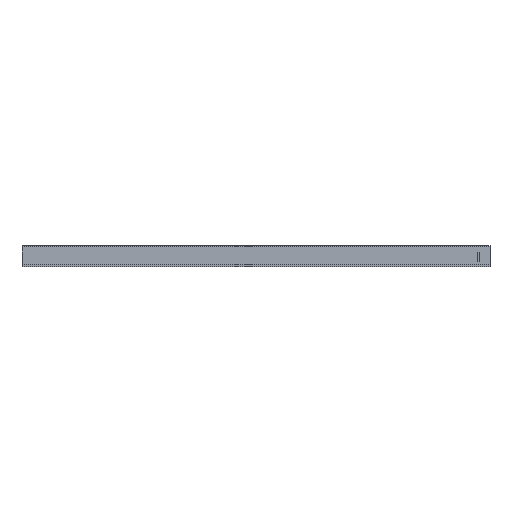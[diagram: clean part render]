
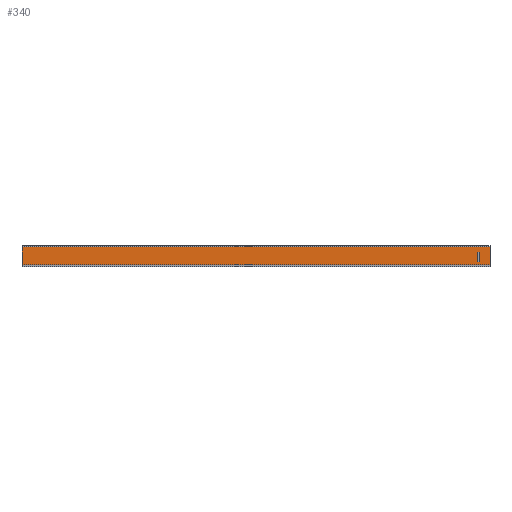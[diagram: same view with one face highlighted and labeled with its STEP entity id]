
A CAD part, left-side view. The second image highlights one B-rep face of the part: STEP entity #340.
In plain terms, the highlighted planar face has unit normal (-1, 0, 0).
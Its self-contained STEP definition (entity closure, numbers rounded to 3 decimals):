
#340 = ADVANCED_FACE( '', ( #1057, #1058 ), #1059, .F. );
#1057 = FACE_BOUND( '', #2205, .T. );
#1058 = FACE_OUTER_BOUND( '', #2206, .T. );
#1059 = PLANE( '', #2207 );
#2205 = EDGE_LOOP( '', ( #4158, #4159, #4160, #4161 ) );
#2206 = EDGE_LOOP( '', ( #4162, #4163, #4164, #4165 ) );
#2207 = AXIS2_PLACEMENT_3D( '', #4166, #4167, #4168 );
#4158 = ORIENTED_EDGE( '', *, *, #6637, .F. );
#4159 = ORIENTED_EDGE( '', *, *, #6237, .F. );
#4160 = ORIENTED_EDGE( '', *, *, #6638, .T. );
#4161 = ORIENTED_EDGE( '', *, *, #6639, .T. );
#4162 = ORIENTED_EDGE( '', *, *, #6615, .T. );
#4163 = ORIENTED_EDGE( '', *, *, #6375, .F. );
#4164 = ORIENTED_EDGE( '', *, *, #6636, .F. );
#4165 = ORIENTED_EDGE( '', *, *, #6640, .T. );
#4166 = CARTESIAN_POINT( '', ( -22., 1800., 7.3 ) );
#4167 = DIRECTION( '', ( 1., 0., 0. ) );
#4168 = DIRECTION( '', ( 0., 0., -1. ) );
#6237 = EDGE_CURVE( '', #7290, #7292, #7293, .T. );
#6375 = EDGE_CURVE( '', #7532, #7527, #7534, .T. );
#6615 = EDGE_CURVE( '', #7953, #7527, #7954, .T. );
#6636 = EDGE_CURVE( '', #7988, #7532, #7990, .T. );
#6637 = EDGE_CURVE( '', #7292, #7991, #7992, .T. );
#6638 = EDGE_CURVE( '', #7290, #7993, #7994, .T. );
#6639 = EDGE_CURVE( '', #7993, #7991, #7995, .T. );
#6640 = EDGE_CURVE( '', #7988, #7953, #7996, .T. );
#7290 = VERTEX_POINT( '', #9083 );
#7292 = VERTEX_POINT( '', #9086 );
#7293 = LINE( '', #9087, #9088 );
#7527 = VERTEX_POINT( '', #9429 );
#7532 = VERTEX_POINT( '', #9436 );
#7534 = LINE( '', #9439, #9440 );
#7953 = VERTEX_POINT( '', #10047 );
#7954 = LINE( '', #10048, #10049 );
#7988 = VERTEX_POINT( '', #10102 );
#7990 = LINE( '', #10105, #10106 );
#7991 = VERTEX_POINT( '', #10107 );
#7992 = LINE( '', #10108, #10109 );
#7993 = VERTEX_POINT( '', #10110 );
#7994 = LINE( '', #10111, #10112 );
#7995 = LINE( '', #10113, #10114 );
#7996 = LINE( '', #10115, #10116 );
#9083 = CARTESIAN_POINT( '', ( -22., 47., 54.8 ) );
#9086 = CARTESIAN_POINT( '', ( -22., 47., 46.5 ) );
#9087 = CARTESIAN_POINT( '', ( -22., 47., 54.8 ) );
#9088 = VECTOR( '', #11691, 1000. );
#9429 = CARTESIAN_POINT( '', ( -22., 0., 75.95 ) );
#9436 = CARTESIAN_POINT( '', ( -22., 1800., 75.95 ) );
#9439 = CARTESIAN_POINT( '', ( -22., 1800., 75.95 ) );
#9440 = VECTOR( '', #11883, 1000. );
#10047 = CARTESIAN_POINT( '', ( -22., 0., 7.3 ) );
#10048 = CARTESIAN_POINT( '', ( -22., 0., 7.3 ) );
#10049 = VECTOR( '', #12225, 1000. );
#10102 = CARTESIAN_POINT( '', ( -22., 1800., 7.3 ) );
#10105 = CARTESIAN_POINT( '', ( -22., 1800., 7.3 ) );
#10106 = VECTOR( '', #12246, 1000. );
#10107 = CARTESIAN_POINT( '', ( -22., 41., 46.5 ) );
#10108 = CARTESIAN_POINT( '', ( -22., 47., 46.5 ) );
#10109 = VECTOR( '', #12247, 1000. );
#10110 = CARTESIAN_POINT( '', ( -22., 41., 54.8 ) );
#10111 = CARTESIAN_POINT( '', ( -22., 47., 54.8 ) );
#10112 = VECTOR( '', #12248, 1000. );
#10113 = CARTESIAN_POINT( '', ( -22., 41., 54.8 ) );
#10114 = VECTOR( '', #12249, 1000. );
#10115 = CARTESIAN_POINT( '', ( -22., 1800., 7.3 ) );
#10116 = VECTOR( '', #12250, 1000. );
#11691 = DIRECTION( '', ( 0., 0., -1. ) );
#11883 = DIRECTION( '', ( 0., -1., 0. ) );
#12225 = DIRECTION( '', ( 0., 0., 1. ) );
#12246 = DIRECTION( '', ( 0., 0., 1. ) );
#12247 = DIRECTION( '', ( 0., -1., 0. ) );
#12248 = DIRECTION( '', ( 0., -1., 0. ) );
#12249 = DIRECTION( '', ( 0., 0., -1. ) );
#12250 = DIRECTION( '', ( 0., -1., 0. ) );
